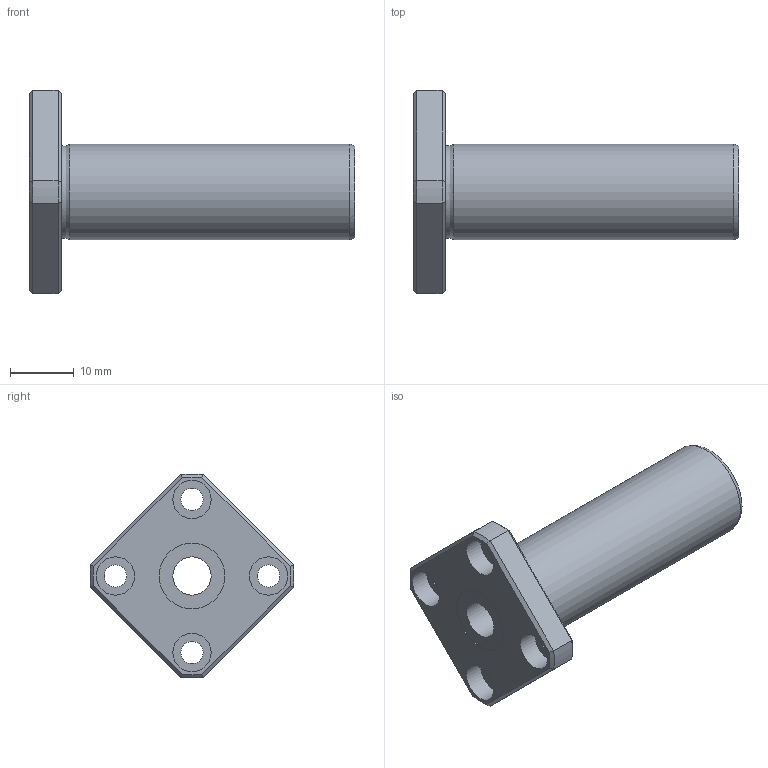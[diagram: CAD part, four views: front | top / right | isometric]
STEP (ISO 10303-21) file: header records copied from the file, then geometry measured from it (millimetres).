
FILE_DESCRIPTION((''),'2;1');
FILE_NAME('D:\製品 (図面)\カタログ用3D\リニアベアリング関連\STEP形式\LFLK\LFLK6.stp','2010-06-04T09:07:10',('Tsuchiya'),(''),'Autodesk Inventor 10','Autodesk Inventor 10','');
FILE_SCHEMA(('AUTOMOTIVE_DESIGN { 1 0 10303 214 1 1 1 1 }'));
Length unit declared in the file: millimetre
Products named in the file (1): LFLK6
Bounding box: 51 x 31.98 x 31.98 mm (x, y, z)
Volume: 9268.7 mm3; surface area: 4957.9 mm2
Topology: 1 solids, 1 shells, 47 faces, 96 edges, 58 vertices
Faces by surface type: plane 21, cylinder 16, cone 8, torus 1, bspline 1
Full cylindrical faces by diameter (mm): 3.5 x4, 6 x5, 10.3 x2, 15 x1
Entity records: 1275 total; most frequent: CARTESIAN_POINT 298, DIRECTION 202, ORIENTED_EDGE 164, AXIS2_PLACEMENT_3D 89, EDGE_CURVE 82, EDGE_LOOP 78, VERTEX_POINT 58, FACE_OUTER_BOUND 47
